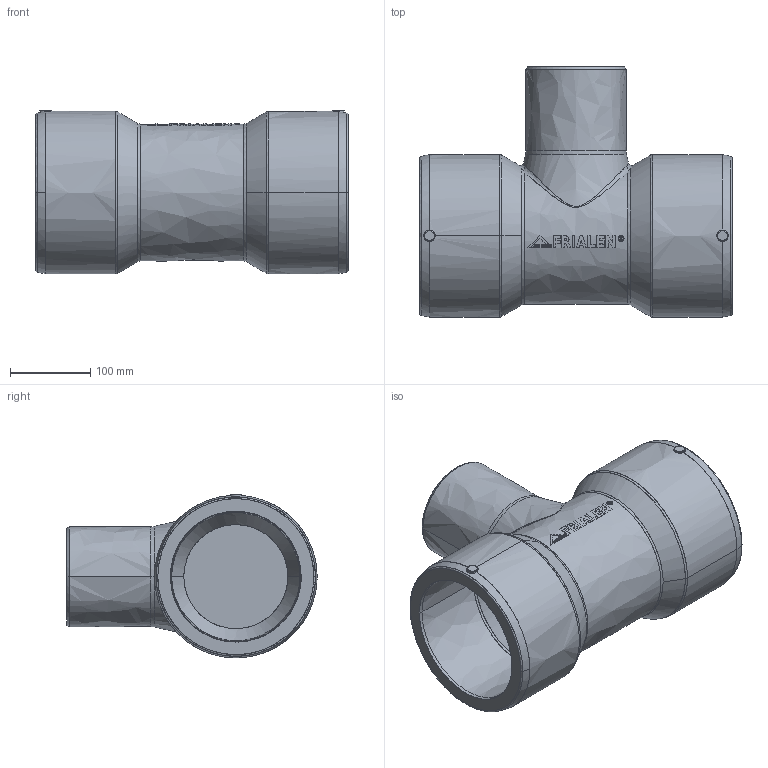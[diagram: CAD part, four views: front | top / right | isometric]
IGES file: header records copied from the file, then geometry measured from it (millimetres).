
Start section:  PTC IGES file: ta-red_d160_d125_01.igs
Global section: file name: ta-red_d160_d125_01.igs; native system: Creo Parametric by PTC Inc.; preprocessor: 2019030; author: jungmang; organization: Unknown; date: 20201222.082606; units: millimetre
Bounding box: 390 x 312.5 x 204.6 mm (x, y, z)
Surface area: 472617.5 mm2 (no closed solid volume)
Topology: 0 solids, 0 shells, 273 faces, 1386 edges, 1386 vertices
Faces by surface type: bspline 273
